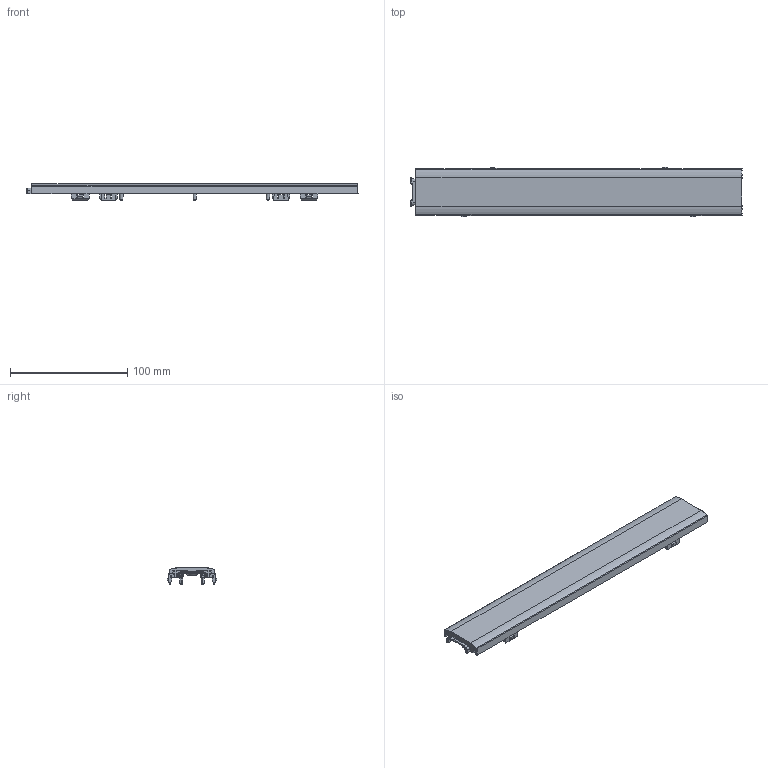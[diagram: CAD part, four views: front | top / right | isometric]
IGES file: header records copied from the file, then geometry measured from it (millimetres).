
Global section: file name: C:\CoreTechnologie\3D-In/022YM02Y06.igs; native system: CT CoreTechnologie 3D Evolution; preprocessor: 2006; date: 1191112.145547; units: millimetre
Bounding box: 283.2 x 42.4 x 14.1 mm (x, y, z)
Volume: 37435.6 mm3; surface area: 34039.2 mm2
Topology: 1 solids, 1 shells, 1121 faces, 2935 edges, 1816 vertices
Faces by surface type: revolution 618, plane 346, bspline 157
